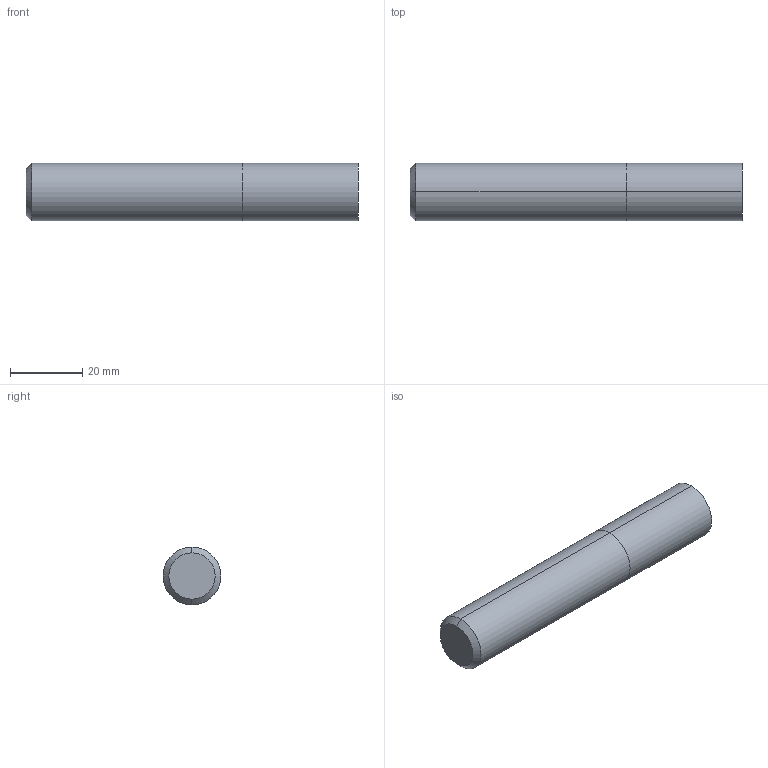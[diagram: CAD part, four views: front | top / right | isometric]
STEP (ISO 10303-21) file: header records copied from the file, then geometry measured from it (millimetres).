
FILE_DESCRIPTION (( 'STEP AP214' ), '1' );
FILE_NAME ('EM814160.STEP', '2018-07-01T22:47:23', ( '' ), ( '' ), 'SwSTEP 2.0', 'SolidWorks 2014', '' );
FILE_SCHEMA (( 'AUTOMOTIVE_DESIGN' ));
Length unit declared in the file: millimetre
Products named in the file (1): EM814160
Bounding box: 92 x 16 x 16 mm (x, y, z)
Volume: 18437.6 mm3; surface area: 5378.2 mm2
Topology: 2 solids, 2 shells, 10 faces, 16 edges, 10 vertices
Faces by surface type: cylinder 4, plane 4, cone 2
Entity records: 321 total; most frequent: DIRECTION 48, CARTESIAN_POINT 37, ORIENTED_EDGE 32, AXIS2_PLACEMENT_3D 21, EDGE_CURVE 16, ADVANCED_FACE 10, VERTEX_POINT 10, EDGE_LOOP 10
